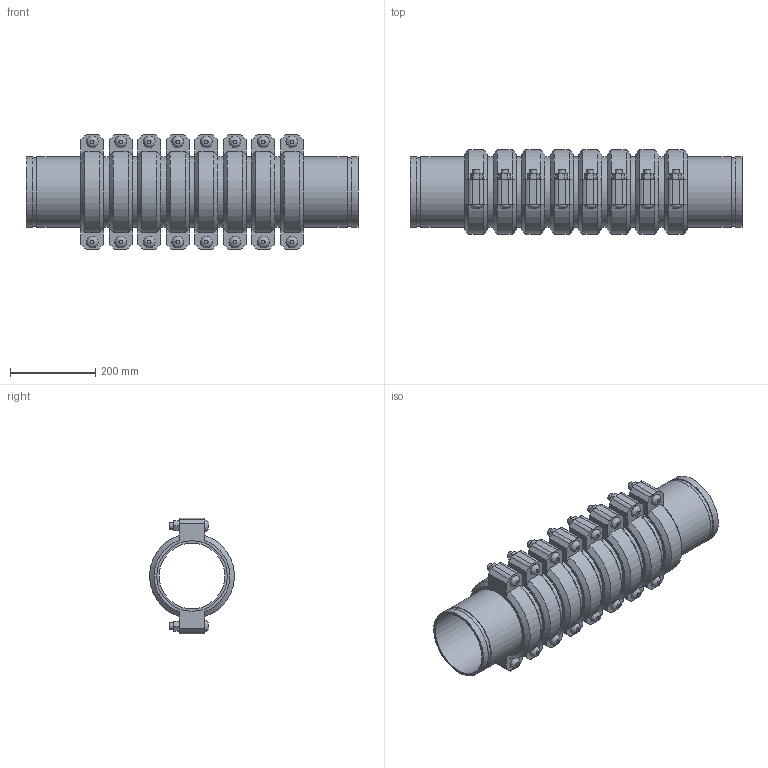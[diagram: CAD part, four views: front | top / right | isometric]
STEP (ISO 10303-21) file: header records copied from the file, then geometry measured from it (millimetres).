
FILE_DESCRIPTION(/* description */ ('VIC EXPANSION JOINT 8 COUPLINGS EXPANDED STYLE 155 (OGS)','CAx-IF Rec.Pracs.---Representation and Presentation of Product Manufacturing Information (PMI)---4.0---2014-10-13'),/* implementation_level */ '2;1');
FILE_NAME(/* name */ 'C:\Users\kkamble\AppData\Roaming\Autodesk\ApplicationPlugins\Victaulic.Temp\A413\Victaulic_IPS_Expansion Joint_Expanded_8 Couplings_Style 155 (OGS)_06.0 (165.1) (150).stp',/* time_stamp */ '2021-06-27T00:09:31+02:00',/* author */ ('kkamble'),/* organization */ ('Victaulic'),/* preprocessor_version */ 'ST-DEVELOPER v17.2',/* originating_system */ 'Autodesk Inventor 2019',/* authorisation */ '');
FILE_SCHEMA (('AP242_MANAGED_MODEL_BASED_3D_ENGINEERING_MIM_LF { 1 0 10303 442 1 1 4 }'));
Length unit declared in the file: inch
Products named in the file (4): 155-06.0 (165.1); Nipple-06.0 (165.1); Nipple-06.0 (165.1)_1; 075-06.0 (165.1)
Assembly tree (17 placements, depth 2):
  155-06.0 (165.1)
    Nipple-06.0 (165.1)  x2
    Nipple-06.0 (165.1)_1  x7
    075-06.0 (165.1)  x8
Bounding box: 778 x 198.42 x 270.76 mm (x, y, z)
Volume: 7556142.5 mm3; surface area: 1710728.7 mm2
Topology: 17 solids, 33 shells, 564 faces, 1334 edges, 936 vertices
Faces by surface type: plane 342, cylinder 174, cone 32, bspline 16
Full cylindrical faces by diameter (mm): 15.875 x32, 17.424 x16, 153.975 x9, 158.75 x8, 160.782 x18, 165.1 x43
Entity records: 2849 total; most frequent: CARTESIAN_POINT 501, DIRECTION 477, ORIENTED_EDGE 386, EDGE_CURVE 193, AXIS2_PLACEMENT_3D 192, VERTEX_POINT 138, EDGE_LOOP 107, LINE 93
